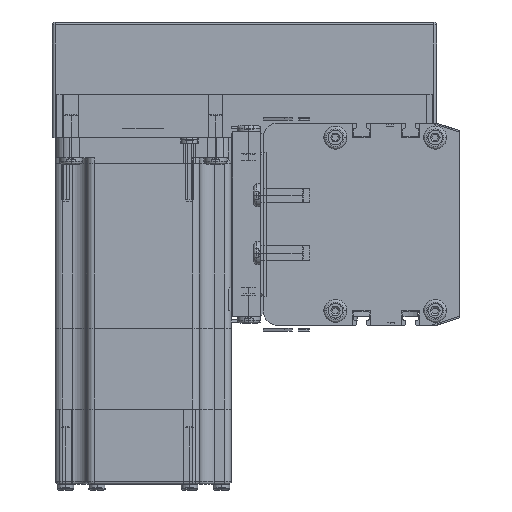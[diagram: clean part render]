
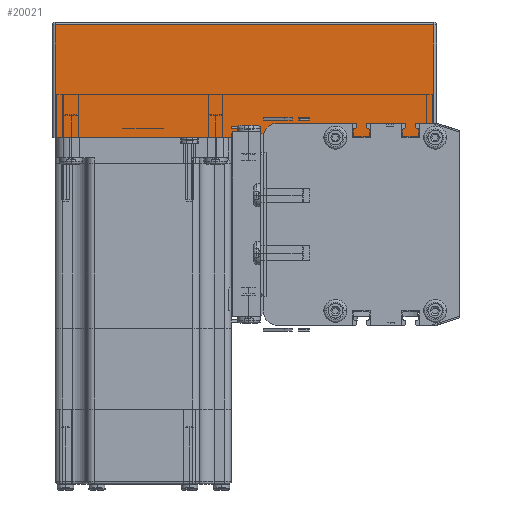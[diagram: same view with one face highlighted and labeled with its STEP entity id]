
A CAD part, left-side view. The second image highlights one B-rep face of the part: STEP entity #20021.
In plain terms, the highlighted planar face has unit normal (-1, 0, 0) as drawn and (0, -1, 0) by its records, which use the part's own axes.
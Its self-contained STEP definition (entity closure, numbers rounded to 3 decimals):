
#18788 = EDGE_CURVE ( 'NONE', #20454, #20456, #111123, .T. ) ;
#20003 = ORIENTED_EDGE ( 'NONE', *, *, #20016, .T. ) ;
#20005 = VERTEX_POINT ( 'NONE', #111441 ) ;
#20010 = ORIENTED_EDGE ( 'NONE', *, *, #18788, .T. ) ;
#20011 = ORIENTED_EDGE ( 'NONE', *, *, #20025, .T. ) ;
#20016 = EDGE_CURVE ( 'NONE', #20456, #20005, #112106, .T. ) ;
#20021 = ADVANCED_FACE ( 'NONE', ( #111404 ), #112105, .F. ) ;
#20023 = VERTEX_POINT ( 'NONE', #111402 ) ;
#20025 = EDGE_CURVE ( 'NONE', #20023, #20454, #112086, .T. ) ;
#20035 = EDGE_CURVE ( 'NONE', #20005, #20023, #111992, .T. ) ;
#20043 = ORIENTED_EDGE ( 'NONE', *, *, #20035, .T. ) ;
#20150 = EDGE_LOOP ( 'NONE', ( #20043, #20011, #20010, #20003 ) ) ;
#20454 = VERTEX_POINT ( 'NONE', #112708 ) ;
#20456 = VERTEX_POINT ( 'NONE', #113028 ) ;
#111119 = DIRECTION ( 'NONE',  ( 1., 0., 0. ) ) ;
#111121 = VECTOR ( 'NONE', #111119, 1000. ) ;
#111122 = CARTESIAN_POINT ( 'NONE',  ( 0., 0., 0. ) ) ;
#111123 = LINE ( 'NONE', #111122, #111121 ) ;
#111402 = CARTESIAN_POINT ( 'NONE',  ( 1., 0., 39. ) ) ;
#111404 = FACE_OUTER_BOUND ( 'NONE', #20150, .T. ) ;
#111409 = CARTESIAN_POINT ( 'NONE',  ( 0., 0., 40. ) ) ;
#111441 = CARTESIAN_POINT ( 'NONE',  ( 132., 0., 39. ) ) ;
#111974 = DIRECTION ( 'NONE',  ( -1., 0., 0. ) ) ;
#111976 = VECTOR ( 'NONE', #111974, 1000. ) ;
#111990 = CARTESIAN_POINT ( 'NONE',  ( 0., 0., 39. ) ) ;
#111992 = LINE ( 'NONE', #111990, #111976 ) ;
#112046 = DIRECTION ( 'NONE',  ( 0., 0., -1. ) ) ;
#112048 = VECTOR ( 'NONE', #112046, 1000. ) ;
#112062 = DIRECTION ( 'NONE',  ( 0., 0., 1. ) ) ;
#112064 = DIRECTION ( 'NONE',  ( 0., 1., 0. ) ) ;
#112075 = AXIS2_PLACEMENT_3D ( 'NONE', #111409, #112064, #112062 ) ;
#112085 = CARTESIAN_POINT ( 'NONE',  ( 1., 0., 40. ) ) ;
#112086 = LINE ( 'NONE', #112085, #112048 ) ;
#112094 = DIRECTION ( 'NONE',  ( 0., 0., 1. ) ) ;
#112095 = VECTOR ( 'NONE', #112094, 1000. ) ;
#112097 = CARTESIAN_POINT ( 'NONE',  ( 132., 0., 40. ) ) ;
#112105 = PLANE ( 'NONE',  #112075 ) ;
#112106 = LINE ( 'NONE', #112097, #112095 ) ;
#112708 = CARTESIAN_POINT ( 'NONE',  ( 1., 0., 0. ) ) ;
#113028 = CARTESIAN_POINT ( 'NONE',  ( 132., 0., 0. ) ) ;
